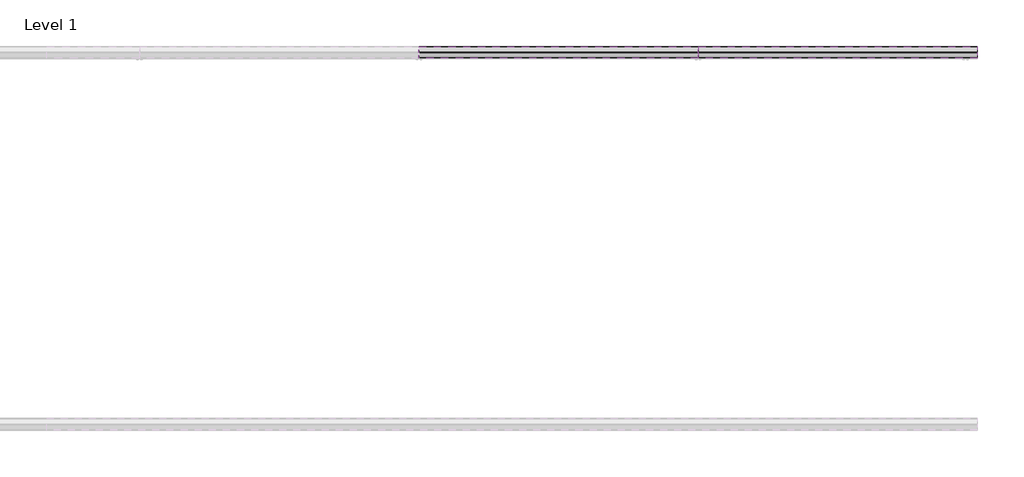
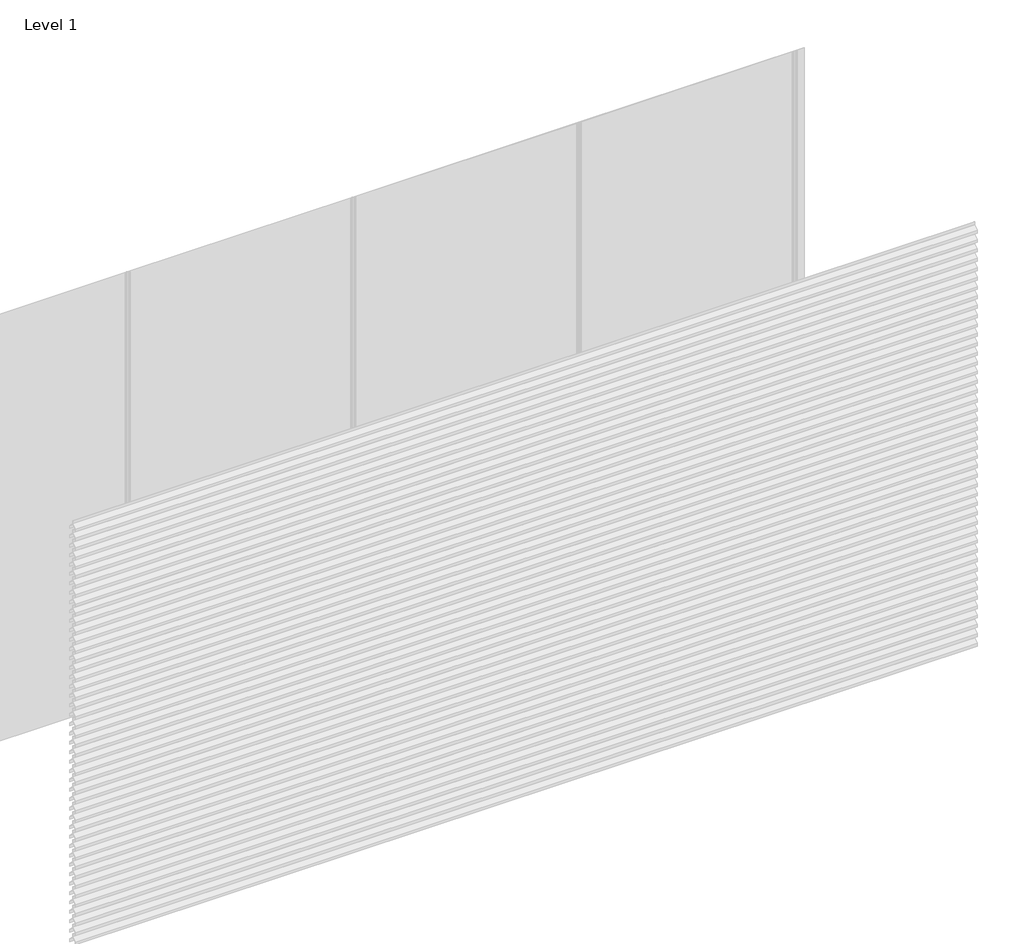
# One storey, part 34 of 35: 75 proxies.
"""IFC4 building model written with IfcOpenShell, lengths in millimetres."""

from ifc_helpers import new_model, si_unit, frame, origin, place, context, project, spatial, polyline, outline, extrude, element, save

model = new_model("IFC4")

# Units and contexts
model_context = context("Model", 3, world=origin())
ifc_project = project(units=[si_unit("LENGTHUNIT", "METRE", prefix="MILLI")], contexts=[model_context])

# Site, building, storey
site = spatial("IfcSite", under=ifc_project)
building = spatial("IfcBuilding", under=site)
storey = spatial("IfcBuildingStorey", under=building, Name="Level 1", Elevation=0.0)

# Proxies
placement = place(None, origin())
element("IfcBuildingElementProxy", 1, Name="Wall Sweeps", at=placement, inside=storey, context=model_context, shape_type="SweptSolid", body=[
    extrude(outline(polyline([(64.0, 2190.0), (64.0, 2170.0), (62.75, 2170.0), (62.75, 2189.4342979), (31.8861061, 2222.531772), (3.3, 2202.4392868), (3.3, 2183.6629874), (2.0, 2182.8506572), (2.0, 2203.1145472), (31.462475, 2223.823011), (31.462475, 2244.0), (32.8227376, 2244.0), (32.8227376, 2223.4335207), (64.0, 2190.0)])), frame((3000.0, 0.0, 0.0), z_axis=(1.0, 0.0, 0.0), x_axis=(0.0, 1.0, 0.0)), (0.0, 0.0, 1.0), 1500.0),
])
element("IfcBuildingElementProxy", 2, Name="Wall Sweeps", at=placement, inside=storey, context=model_context, shape_type="SweptSolid", body=[
    extrude(outline(polyline([(64.0, 2124.0), (64.0, 2104.0), (62.75, 2104.0), (62.75, 2123.4342979), (31.8861061, 2156.531772), (3.3, 2136.4392868), (3.3, 2117.6629874), (2.0, 2116.8506572), (2.0, 2137.1145472), (31.462475, 2157.823011), (31.462475, 2178.0), (32.8227376, 2178.0), (32.8227376, 2157.4335207), (64.0, 2124.0)])), frame((3000.0, 0.0, 0.0), z_axis=(1.0, 0.0, 0.0), x_axis=(0.0, 1.0, 0.0)), (0.0, 0.0, 1.0), 1500.0),
])
element("IfcBuildingElementProxy", 3, Name="Wall Sweeps", at=placement, inside=storey, context=model_context, shape_type="SweptSolid", body=[
    extrude(outline(polyline([(64.0, 2058.0), (64.0, 2038.0), (62.75, 2038.0), (62.75, 2057.4342979), (31.8861061, 2090.531772), (3.3, 2070.4392868), (3.3, 2051.6629874), (2.0, 2050.8506572), (2.0, 2071.1145472), (31.462475, 2091.823011), (31.462475, 2112.0), (32.8227376, 2112.0), (32.8227376, 2091.4335207), (64.0, 2058.0)])), frame((3000.0, 0.0, 0.0), z_axis=(1.0, 0.0, 0.0), x_axis=(0.0, 1.0, 0.0)), (0.0, 0.0, 1.0), 1500.0),
])
element("IfcBuildingElementProxy", 4, Name="Wall Sweeps", at=placement, inside=storey, context=model_context, shape_type="SweptSolid", body=[
    extrude(outline(polyline([(64.0, 1992.0), (64.0, 1972.0), (62.75, 1972.0), (62.75, 1991.4342979), (31.8861061, 2024.531772), (3.3, 2004.4392868), (3.3, 1985.6629874), (2.0, 1984.8506572), (2.0, 2005.1145472), (31.462475, 2025.823011), (31.462475, 2046.0), (32.8227376, 2046.0), (32.8227376, 2025.4335207), (64.0, 1992.0)])), frame((3000.0, 0.0, 0.0), z_axis=(1.0, 0.0, 0.0), x_axis=(0.0, 1.0, 0.0)), (0.0, 0.0, 1.0), 1500.0),
])
element("IfcBuildingElementProxy", 5, Name="Wall Sweeps", at=placement, inside=storey, context=model_context, shape_type="SweptSolid", body=[
    extrude(outline(polyline([(64.0, 1926.0), (64.0, 1906.0), (62.75, 1906.0), (62.75, 1925.4342979), (31.8861061, 1958.531772), (3.3, 1938.4392868), (3.3, 1919.6629874), (2.0, 1918.8506572), (2.0, 1939.1145472), (31.462475, 1959.823011), (31.462475, 1980.0), (32.8227376, 1980.0), (32.8227376, 1959.4335207), (64.0, 1926.0)])), frame((3000.0, 0.0, 0.0), z_axis=(1.0, 0.0, 0.0), x_axis=(0.0, 1.0, 0.0)), (0.0, 0.0, 1.0), 1500.0),
])
element("IfcBuildingElementProxy", 6, Name="Wall Sweeps", at=placement, inside=storey, context=model_context, shape_type="SweptSolid", body=[
    extrude(outline(polyline([(64.0, 1860.0), (64.0, 1840.0), (62.75, 1840.0), (62.75, 1859.4342979), (31.8861061, 1892.531772), (3.3, 1872.4392868), (3.3, 1853.6629874), (2.0, 1852.8506572), (2.0, 1873.1145472), (31.462475, 1893.823011), (31.462475, 1914.0), (32.8227376, 1914.0), (32.8227376, 1893.4335207), (64.0, 1860.0)])), frame((3000.0, 0.0, 0.0), z_axis=(1.0, 0.0, 0.0), x_axis=(0.0, 1.0, 0.0)), (0.0, 0.0, 1.0), 1500.0),
])
element("IfcBuildingElementProxy", 7, Name="Wall Sweeps", at=placement, inside=storey, context=model_context, shape_type="SweptSolid", body=[
    extrude(outline(polyline([(64.0, 1794.0), (64.0, 1774.0), (62.75, 1774.0), (62.75, 1793.4342979), (31.8861061, 1826.531772), (3.3, 1806.4392868), (3.3, 1787.6629874), (2.0, 1786.8506572), (2.0, 1807.1145472), (31.462475, 1827.823011), (31.462475, 1848.0), (32.8227376, 1848.0), (32.8227376, 1827.4335207), (64.0, 1794.0)])), frame((3000.0, 0.0, 0.0), z_axis=(1.0, 0.0, 0.0), x_axis=(0.0, 1.0, 0.0)), (0.0, 0.0, 1.0), 1500.0),
])
element("IfcBuildingElementProxy", 8, Name="Wall Sweeps", at=placement, inside=storey, context=model_context, shape_type="SweptSolid", body=[
    extrude(outline(polyline([(64.0, 1728.0), (64.0, 1708.0), (62.75, 1708.0), (62.75, 1727.4342979), (31.8861061, 1760.531772), (3.3, 1740.4392868), (3.3, 1721.6629874), (2.0, 1720.8506572), (2.0, 1741.1145472), (31.462475, 1761.823011), (31.462475, 1782.0), (32.8227376, 1782.0), (32.8227376, 1761.4335207), (64.0, 1728.0)])), frame((3000.0, 0.0, 0.0), z_axis=(1.0, 0.0, 0.0), x_axis=(0.0, 1.0, 0.0)), (0.0, 0.0, 1.0), 1500.0),
])
element("IfcBuildingElementProxy", 9, Name="Wall Sweeps", at=placement, inside=storey, context=model_context, shape_type="SweptSolid", body=[
    extrude(outline(polyline([(64.0, 1662.0), (64.0, 1642.0), (62.75, 1642.0), (62.75, 1661.4342979), (31.8861061, 1694.531772), (3.3, 1674.4392868), (3.3, 1655.6629874), (2.0, 1654.8506572), (2.0, 1675.1145472), (31.462475, 1695.823011), (31.462475, 1716.0), (32.8227376, 1716.0), (32.8227376, 1695.4335207), (64.0, 1662.0)])), frame((3000.0, 0.0, 0.0), z_axis=(1.0, 0.0, 0.0), x_axis=(0.0, 1.0, 0.0)), (0.0, 0.0, 1.0), 1500.0),
])
element("IfcBuildingElementProxy", 10, Name="Wall Sweeps", at=placement, inside=storey, context=model_context, shape_type="SweptSolid", body=[
    extrude(outline(polyline([(64.0, 1596.0), (64.0, 1576.0), (62.75, 1576.0), (62.75, 1595.4342979), (31.8861061, 1628.531772), (3.3, 1608.4392868), (3.3, 1589.6629874), (2.0, 1588.8506572), (2.0, 1609.1145472), (31.462475, 1629.823011), (31.462475, 1650.0), (32.8227376, 1650.0), (32.8227376, 1629.4335207), (64.0, 1596.0)])), frame((3000.0, 0.0, 0.0), z_axis=(1.0, 0.0, 0.0), x_axis=(0.0, 1.0, 0.0)), (0.0, 0.0, 1.0), 1500.0),
])
element("IfcBuildingElementProxy", 11, Name="Wall Sweeps", at=placement, inside=storey, context=model_context, shape_type="SweptSolid", body=[
    extrude(outline(polyline([(64.0, 1530.0), (64.0, 1510.0), (62.75, 1510.0), (62.75, 1529.4342979), (31.8861061, 1562.531772), (3.3, 1542.4392868), (3.3, 1523.6629874), (2.0, 1522.8506572), (2.0, 1543.1145472), (31.462475, 1563.823011), (31.462475, 1584.0), (32.8227376, 1584.0), (32.8227376, 1563.4335207), (64.0, 1530.0)])), frame((3000.0, 0.0, 0.0), z_axis=(1.0, 0.0, 0.0), x_axis=(0.0, 1.0, 0.0)), (0.0, 0.0, 1.0), 1500.0),
])
element("IfcBuildingElementProxy", 12, Name="Wall Sweeps", at=placement, inside=storey, context=model_context, shape_type="SweptSolid", body=[
    extrude(outline(polyline([(64.0, 1464.0), (64.0, 1444.0), (62.75, 1444.0), (62.75, 1463.4342979), (31.8861061, 1496.531772), (3.3, 1476.4392868), (3.3, 1457.6629874), (2.0, 1456.8506572), (2.0, 1477.1145472), (31.462475, 1497.823011), (31.462475, 1518.0), (32.8227376, 1518.0), (32.8227376, 1497.4335207), (64.0, 1464.0)])), frame((3000.0, 0.0, 0.0), z_axis=(1.0, 0.0, 0.0), x_axis=(0.0, 1.0, 0.0)), (0.0, 0.0, 1.0), 1500.0),
])
element("IfcBuildingElementProxy", 13, Name="Wall Sweeps", at=placement, inside=storey, context=model_context, shape_type="SweptSolid", body=[
    extrude(outline(polyline([(64.0, 1398.0), (64.0, 1378.0), (62.75, 1378.0), (62.75, 1397.4342979), (31.8861061, 1430.531772), (3.3, 1410.4392868), (3.3, 1391.6629874), (2.0, 1390.8506572), (2.0, 1411.1145472), (31.462475, 1431.823011), (31.462475, 1452.0), (32.8227376, 1452.0), (32.8227376, 1431.4335207), (64.0, 1398.0)])), frame((3000.0, 0.0, 0.0), z_axis=(1.0, 0.0, 0.0), x_axis=(0.0, 1.0, 0.0)), (0.0, 0.0, 1.0), 1500.0),
])
element("IfcBuildingElementProxy", 14, Name="Wall Sweeps", at=placement, inside=storey, context=model_context, shape_type="SweptSolid", body=[
    extrude(outline(polyline([(64.0, 1332.0), (64.0, 1312.0), (62.75, 1312.0), (62.75, 1331.4342979), (31.8861061, 1364.531772), (3.3, 1344.4392868), (3.3, 1325.6629874), (2.0, 1324.8506572), (2.0, 1345.1145472), (31.462475, 1365.823011), (31.462475, 1386.0), (32.8227376, 1386.0), (32.8227376, 1365.4335207), (64.0, 1332.0)])), frame((3000.0, 0.0, 0.0), z_axis=(1.0, 0.0, 0.0), x_axis=(0.0, 1.0, 0.0)), (0.0, 0.0, 1.0), 1500.0),
])
element("IfcBuildingElementProxy", 15, Name="Wall Sweeps", at=placement, inside=storey, context=model_context, shape_type="SweptSolid", body=[
    extrude(outline(polyline([(64.0, 1266.0), (64.0, 1246.0), (62.75, 1246.0), (62.75, 1265.4342979), (31.8861061, 1298.531772), (3.3, 1278.4392868), (3.3, 1259.6629874), (2.0, 1258.8506572), (2.0, 1279.1145472), (31.462475, 1299.823011), (31.462475, 1320.0), (32.8227376, 1320.0), (32.8227376, 1299.4335207), (64.0, 1266.0)])), frame((3000.0, 0.0, 0.0), z_axis=(1.0, 0.0, 0.0), x_axis=(0.0, 1.0, 0.0)), (0.0, 0.0, 1.0), 1500.0),
])
element("IfcBuildingElementProxy", 16, Name="Wall Sweeps", at=placement, inside=storey, context=model_context, shape_type="SweptSolid", body=[
    extrude(outline(polyline([(64.0, 1200.0), (64.0, 1180.0), (62.75, 1180.0), (62.75, 1199.4342979), (31.8861061, 1232.531772), (3.3, 1212.4392868), (3.3, 1193.6629874), (2.0, 1192.8506572), (2.0, 1213.1145472), (31.462475, 1233.823011), (31.462475, 1254.0), (32.8227376, 1254.0), (32.8227376, 1233.4335207), (64.0, 1200.0)])), frame((3000.0, 0.0, 0.0), z_axis=(1.0, 0.0, 0.0), x_axis=(0.0, 1.0, 0.0)), (0.0, 0.0, 1.0), 1500.0),
])
element("IfcBuildingElementProxy", 17, Name="Wall Sweeps", at=placement, inside=storey, context=model_context, shape_type="SweptSolid", body=[
    extrude(outline(polyline([(64.0, 1134.0), (64.0, 1114.0), (62.75, 1114.0), (62.75, 1133.4342979), (31.8861061, 1166.531772), (3.3, 1146.4392868), (3.3, 1127.6629874), (2.0, 1126.8506572), (2.0, 1147.1145472), (31.462475, 1167.823011), (31.462475, 1188.0), (32.8227376, 1188.0), (32.8227376, 1167.4335207), (64.0, 1134.0)])), frame((3000.0, 0.0, 0.0), z_axis=(1.0, 0.0, 0.0), x_axis=(0.0, 1.0, 0.0)), (0.0, 0.0, 1.0), 1500.0),
])
element("IfcBuildingElementProxy", 18, Name="Wall Sweeps", at=placement, inside=storey, context=model_context, shape_type="SweptSolid", body=[
    extrude(outline(polyline([(64.0, 1068.0), (64.0, 1048.0), (62.75, 1048.0), (62.75, 1067.4342979), (31.8861061, 1100.531772), (3.3, 1080.4392868), (3.3, 1061.6629874), (2.0, 1060.8506572), (2.0, 1081.1145472), (31.462475, 1101.823011), (31.462475, 1122.0), (32.8227376, 1122.0), (32.8227376, 1101.4335207), (64.0, 1068.0)])), frame((3000.0, 0.0, 0.0), z_axis=(1.0, 0.0, 0.0), x_axis=(0.0, 1.0, 0.0)), (0.0, 0.0, 1.0), 1500.0),
])
element("IfcBuildingElementProxy", 19, Name="Wall Sweeps", at=placement, inside=storey, context=model_context, shape_type="SweptSolid", body=[
    extrude(outline(polyline([(64.0, 1002.0), (64.0, 982.0), (62.75, 982.0), (62.75, 1001.4342979), (31.8861061, 1034.531772), (3.3, 1014.4392868), (3.3, 995.6629874), (2.0, 994.8506572), (2.0, 1015.1145472), (31.462475, 1035.823011), (31.462475, 1056.0), (32.8227376, 1056.0), (32.8227376, 1035.4335207), (64.0, 1002.0)])), frame((3000.0, 0.0, 0.0), z_axis=(1.0, 0.0, 0.0), x_axis=(0.0, 1.0, 0.0)), (0.0, 0.0, 1.0), 1500.0),
])
element("IfcBuildingElementProxy", 20, Name="Wall Sweeps", at=placement, inside=storey, context=model_context, shape_type="SweptSolid", body=[
    extrude(outline(polyline([(64.0, 936.0), (64.0, 916.0), (62.75, 916.0), (62.75, 935.4342979), (31.8861061, 968.531772), (3.3, 948.4392868), (3.3, 929.6629874), (2.0, 928.8506572), (2.0, 949.1145472), (31.462475, 969.823011), (31.462475, 990.0), (32.8227376, 990.0), (32.8227376, 969.4335207), (64.0, 936.0)])), frame((3000.0, 0.0, 0.0), z_axis=(1.0, 0.0, 0.0), x_axis=(0.0, 1.0, 0.0)), (0.0, 0.0, 1.0), 1500.0),
])
element("IfcBuildingElementProxy", 21, Name="Wall Sweeps", at=placement, inside=storey, context=model_context, shape_type="SweptSolid", body=[
    extrude(outline(polyline([(64.0, 870.0), (64.0, 850.0), (62.75, 850.0), (62.75, 869.4342979), (31.8861061, 902.531772), (3.3, 882.4392868), (3.3, 863.6629874), (2.0, 862.8506572), (2.0, 883.1145472), (31.462475, 903.823011), (31.462475, 924.0), (32.8227376, 924.0), (32.8227376, 903.4335207), (64.0, 870.0)])), frame((3000.0, 0.0, 0.0), z_axis=(1.0, 0.0, 0.0), x_axis=(0.0, 1.0, 0.0)), (0.0, 0.0, 1.0), 1500.0),
])
element("IfcBuildingElementProxy", 22, Name="Wall Sweeps", at=placement, inside=storey, context=model_context, shape_type="SweptSolid", body=[
    extrude(outline(polyline([(64.0, 804.0), (64.0, 784.0), (62.75, 784.0), (62.75, 803.4342979), (31.8861061, 836.531772), (3.3, 816.4392868), (3.3, 797.6629874), (2.0, 796.8506572), (2.0, 817.1145472), (31.462475, 837.823011), (31.462475, 858.0), (32.8227376, 858.0), (32.8227376, 837.4335207), (64.0, 804.0)])), frame((3000.0, 0.0, 0.0), z_axis=(1.0, 0.0, 0.0), x_axis=(0.0, 1.0, 0.0)), (0.0, 0.0, 1.0), 1500.0),
])
element("IfcBuildingElementProxy", 23, Name="Wall Sweeps", at=placement, inside=storey, context=model_context, shape_type="SweptSolid", body=[
    extrude(outline(polyline([(64.0, 738.0), (64.0, 718.0), (62.75, 718.0), (62.75, 737.4342979), (31.8861061, 770.531772), (3.3, 750.4392868), (3.3, 731.6629874), (2.0, 730.8506572), (2.0, 751.1145472), (31.462475, 771.823011), (31.462475, 792.0), (32.8227376, 792.0), (32.8227376, 771.4335207), (64.0, 738.0)])), frame((3000.0, 0.0, 0.0), z_axis=(1.0, 0.0, 0.0), x_axis=(0.0, 1.0, 0.0)), (0.0, 0.0, 1.0), 1500.0),
])
element("IfcBuildingElementProxy", 24, Name="Wall Sweeps", at=placement, inside=storey, context=model_context, shape_type="SweptSolid", body=[
    extrude(outline(polyline([(64.0, 672.0), (64.0, 652.0), (62.75, 652.0), (62.75, 671.4342979), (31.8861061, 704.531772), (3.3, 684.4392868), (3.3, 665.6629874), (2.0, 664.8506572), (2.0, 685.1145472), (31.462475, 705.823011), (31.462475, 726.0), (32.8227376, 726.0), (32.8227376, 705.4335207), (64.0, 672.0)])), frame((3000.0, 0.0, 0.0), z_axis=(1.0, 0.0, 0.0), x_axis=(0.0, 1.0, 0.0)), (0.0, 0.0, 1.0), 1500.0),
])
element("IfcBuildingElementProxy", 25, Name="Wall Sweeps", at=placement, inside=storey, context=model_context, shape_type="SweptSolid", body=[
    extrude(outline(polyline([(64.0, 606.0), (64.0, 586.0), (62.75, 586.0), (62.75, 605.4342979), (31.8861061, 638.531772), (3.3, 618.4392868), (3.3, 599.6629874), (2.0, 598.8506572), (2.0, 619.1145472), (31.462475, 639.823011), (31.462475, 660.0), (32.8227376, 660.0), (32.8227376, 639.4335207), (64.0, 606.0)])), frame((3000.0, 0.0, 0.0), z_axis=(1.0, 0.0, 0.0), x_axis=(0.0, 1.0, 0.0)), (0.0, 0.0, 1.0), 1500.0),
])
element("IfcBuildingElementProxy", 26, Name="Wall Sweeps", at=placement, inside=storey, context=model_context, shape_type="SweptSolid", body=[
    extrude(outline(polyline([(64.0, 540.0), (64.0, 520.0), (62.75, 520.0), (62.75, 539.4342979), (31.8861061, 572.531772), (3.3, 552.4392868), (3.3, 533.6629874), (2.0, 532.8506572), (2.0, 553.1145472), (31.462475, 573.823011), (31.462475, 594.0), (32.8227376, 594.0), (32.8227376, 573.4335207), (64.0, 540.0)])), frame((3000.0, 0.0, 0.0), z_axis=(1.0, 0.0, 0.0), x_axis=(0.0, 1.0, 0.0)), (0.0, 0.0, 1.0), 1500.0),
])
element("IfcBuildingElementProxy", 27, Name="Wall Sweeps", at=placement, inside=storey, context=model_context, shape_type="SweptSolid", body=[
    extrude(outline(polyline([(64.0, 474.0), (64.0, 454.0), (62.75, 454.0), (62.75, 473.4342979), (31.8861061, 506.531772), (3.3, 486.4392868), (3.3, 467.6629874), (2.0, 466.8506572), (2.0, 487.1145472), (31.462475, 507.823011), (31.462475, 528.0), (32.8227376, 528.0), (32.8227376, 507.4335207), (64.0, 474.0)])), frame((3000.0, 0.0, 0.0), z_axis=(1.0, 0.0, 0.0), x_axis=(0.0, 1.0, 0.0)), (0.0, 0.0, 1.0), 1500.0),
])
element("IfcBuildingElementProxy", 28, Name="Wall Sweeps", at=placement, inside=storey, context=model_context, shape_type="SweptSolid", body=[
    extrude(outline(polyline([(64.0, 408.0), (64.0, 388.0), (62.75, 388.0), (62.75, 407.4342979), (31.8861061, 440.531772), (3.3, 420.4392868), (3.3, 401.6629874), (2.0, 400.8506572), (2.0, 421.1145472), (31.462475, 441.823011), (31.462475, 462.0), (32.8227376, 462.0), (32.8227376, 441.4335207), (64.0, 408.0)])), frame((3000.0, 0.0, 0.0), z_axis=(1.0, 0.0, 0.0), x_axis=(0.0, 1.0, 0.0)), (0.0, 0.0, 1.0), 1500.0),
])
element("IfcBuildingElementProxy", 29, Name="Wall Sweeps", at=placement, inside=storey, context=model_context, shape_type="SweptSolid", body=[
    extrude(outline(polyline([(64.0, 342.0), (64.0, 322.0), (62.75, 322.0), (62.75, 341.4342979), (31.8861061, 374.531772), (3.3, 354.4392868), (3.3, 335.6629874), (2.0, 334.8506572), (2.0, 355.1145472), (31.462475, 375.823011), (31.462475, 396.0), (32.8227376, 396.0), (32.8227376, 375.4335207), (64.0, 342.0)])), frame((3000.0, 0.0, 0.0), z_axis=(1.0, 0.0, 0.0), x_axis=(0.0, 1.0, 0.0)), (0.0, 0.0, 1.0), 1500.0),
])
element("IfcBuildingElementProxy", 30, Name="Wall Sweeps", at=placement, inside=storey, context=model_context, shape_type="SweptSolid", body=[
    extrude(outline(polyline([(64.0, 276.0), (64.0, 256.0), (62.75, 256.0), (62.75, 275.4342979), (31.8861061, 308.531772), (3.3, 288.4392868), (3.3, 269.6629874), (2.0, 268.8506572), (2.0, 289.1145472), (31.462475, 309.823011), (31.462475, 330.0), (32.8227376, 330.0), (32.8227376, 309.4335207), (64.0, 276.0)])), frame((3000.0, 0.0, 0.0), z_axis=(1.0, 0.0, 0.0), x_axis=(0.0, 1.0, 0.0)), (0.0, 0.0, 1.0), 1500.0),
])
element("IfcBuildingElementProxy", 31, Name="Wall Sweeps", at=placement, inside=storey, context=model_context, shape_type="SweptSolid", body=[
    extrude(outline(polyline([(64.0, 210.0), (64.0, 190.0), (62.75, 190.0), (62.75, 209.4342979), (31.8861061, 242.531772), (3.3, 222.4392868), (3.3, 203.6629874), (2.0, 202.8506572), (2.0, 223.1145472), (31.462475, 243.823011), (31.462475, 264.0), (32.8227376, 264.0), (32.8227376, 243.4335207), (64.0, 210.0)])), frame((3000.0, 0.0, 0.0), z_axis=(1.0, 0.0, 0.0), x_axis=(0.0, 1.0, 0.0)), (0.0, 0.0, 1.0), 1500.0),
])
element("IfcBuildingElementProxy", 32, Name="Wall Sweeps", at=placement, inside=storey, context=model_context, shape_type="SweptSolid", body=[
    extrude(outline(polyline([(64.0, 144.0), (64.0, 124.0), (62.75, 124.0), (62.75, 143.4342979), (31.8861061, 176.531772), (3.3, 156.4392868), (3.3, 137.6629874), (2.0, 136.8506572), (2.0, 157.1145472), (31.462475, 177.823011), (31.462475, 198.0), (32.8227376, 198.0), (32.8227376, 177.4335207), (64.0, 144.0)])), frame((3000.0, 0.0, 0.0), z_axis=(1.0, 0.0, 0.0), x_axis=(0.0, 1.0, 0.0)), (0.0, 0.0, 1.0), 1500.0),
])
element("IfcBuildingElementProxy", 33, Name="Wall Sweeps", at=placement, inside=storey, context=model_context, shape_type="SweptSolid", body=[
    extrude(outline(polyline([(64.0, 78.0), (64.0, 58.0), (62.75, 58.0), (62.75, 77.4342979), (31.8861061, 110.531772), (3.3, 90.4392868), (3.3, 71.6629874), (2.0, 70.8506572), (2.0, 91.1145472), (31.462475, 111.823011), (31.462475, 132.0), (32.8227376, 132.0), (32.8227376, 111.4335207), (64.0, 78.0)])), frame((3000.0, 0.0, 0.0), z_axis=(1.0, 0.0, 0.0), x_axis=(0.0, 1.0, 0.0)), (0.0, 0.0, 1.0), 1500.0),
])
element("IfcBuildingElementProxy", 34, Name="Wall Sweeps", at=placement, inside=storey, context=model_context, shape_type="SweptSolid", body=[
    extrude(outline(polyline([(64.0, 12.0), (64.0, -8.0), (62.75, -8.0), (62.75, 11.4342979), (31.8861061, 44.531772), (3.3, 24.4392868), (3.3, 5.6629874), (2.0, 4.8506572), (2.0, 25.1145472), (31.462475, 45.823011), (31.462475, 66.0), (32.8227376, 66.0), (32.8227376, 45.4335207), (64.0, 12.0)])), frame((3000.0, 0.0, 0.0), z_axis=(1.0, 0.0, 0.0), x_axis=(0.0, 1.0, 0.0)), (0.0, 0.0, 1.0), 1500.0),
])
element("IfcBuildingElementProxy", 35, Name="Wall Sweeps", at=placement, inside=storey, context=model_context, shape_type="SweptSolid", body=[
    extrude(outline(polyline([(64.0, 2916.0), (64.0, 2896.0), (62.75, 2896.0), (62.75, 2915.4342979), (31.8861061, 2948.531772), (3.3, 2928.4392868), (3.3, 2909.6629874), (2.0, 2908.8506572), (2.0, 2929.1145472), (31.462475, 2949.823011), (31.462475, 2970.0), (32.8227376, 2970.0), (32.8227376, 2949.4335207), (64.0, 2916.0)])), frame((4500.0, 0.0, 0.0), z_axis=(1.0, 0.0, 0.0), x_axis=(0.0, 1.0, 0.0)), (0.0, 0.0, 1.0), 1500.0),
])
element("IfcBuildingElementProxy", 36, Name="Wall Sweeps", at=placement, inside=storey, context=model_context, shape_type="SweptSolid", body=[
    extrude(outline(polyline([(64.0, 2850.0), (64.0, 2830.0), (62.75, 2830.0), (62.75, 2849.4342979), (31.8861061, 2882.531772), (3.3, 2862.4392868), (3.3, 2843.6629874), (2.0, 2842.8506572), (2.0, 2863.1145472), (31.462475, 2883.823011), (31.462475, 2904.0), (32.8227376, 2904.0), (32.8227376, 2883.4335207), (64.0, 2850.0)])), frame((4500.0, 0.0, 0.0), z_axis=(1.0, 0.0, 0.0), x_axis=(0.0, 1.0, 0.0)), (0.0, 0.0, 1.0), 1500.0),
])
element("IfcBuildingElementProxy", 37, Name="Wall Sweeps", at=placement, inside=storey, context=model_context, shape_type="SweptSolid", body=[
    extrude(outline(polyline([(64.0, 2784.0), (64.0, 2764.0), (62.75, 2764.0), (62.75, 2783.4342979), (31.8861061, 2816.531772), (3.3, 2796.4392868), (3.3, 2777.6629874), (2.0, 2776.8506572), (2.0, 2797.1145472), (31.462475, 2817.823011), (31.462475, 2838.0), (32.8227376, 2838.0), (32.8227376, 2817.4335207), (64.0, 2784.0)])), frame((4500.0, 0.0, 0.0), z_axis=(1.0, 0.0, 0.0), x_axis=(0.0, 1.0, 0.0)), (0.0, 0.0, 1.0), 1500.0),
])
element("IfcBuildingElementProxy", 38, Name="Wall Sweeps", at=placement, inside=storey, context=model_context, shape_type="SweptSolid", body=[
    extrude(outline(polyline([(64.0, 2718.0), (64.0, 2698.0), (62.75, 2698.0), (62.75, 2717.4342979), (31.8861061, 2750.531772), (3.3, 2730.4392868), (3.3, 2711.6629874), (2.0, 2710.8506572), (2.0, 2731.1145472), (31.462475, 2751.823011), (31.462475, 2772.0), (32.8227376, 2772.0), (32.8227376, 2751.4335207), (64.0, 2718.0)])), frame((4500.0, 0.0, 0.0), z_axis=(1.0, 0.0, 0.0), x_axis=(0.0, 1.0, 0.0)), (0.0, 0.0, 1.0), 1500.0),
])
element("IfcBuildingElementProxy", 39, Name="Wall Sweeps", at=placement, inside=storey, context=model_context, shape_type="SweptSolid", body=[
    extrude(outline(polyline([(64.0, 2652.0), (64.0, 2632.0), (62.75, 2632.0), (62.75, 2651.4342979), (31.8861061, 2684.531772), (3.3, 2664.4392868), (3.3, 2645.6629874), (2.0, 2644.8506572), (2.0, 2665.1145472), (31.462475, 2685.823011), (31.462475, 2706.0), (32.8227376, 2706.0), (32.8227376, 2685.4335207), (64.0, 2652.0)])), frame((4500.0, 0.0, 0.0), z_axis=(1.0, 0.0, 0.0), x_axis=(0.0, 1.0, 0.0)), (0.0, 0.0, 1.0), 1500.0),
])
element("IfcBuildingElementProxy", 40, Name="Wall Sweeps", at=placement, inside=storey, context=model_context, shape_type="SweptSolid", body=[
    extrude(outline(polyline([(64.0, 2586.0), (64.0, 2566.0), (62.75, 2566.0), (62.75, 2585.4342979), (31.8861061, 2618.531772), (3.3, 2598.4392868), (3.3, 2579.6629874), (2.0, 2578.8506572), (2.0, 2599.1145472), (31.462475, 2619.823011), (31.462475, 2640.0), (32.8227376, 2640.0), (32.8227376, 2619.4335207), (64.0, 2586.0)])), frame((4500.0, 0.0, 0.0), z_axis=(1.0, 0.0, 0.0), x_axis=(0.0, 1.0, 0.0)), (0.0, 0.0, 1.0), 1500.0),
])
element("IfcBuildingElementProxy", 41, Name="Wall Sweeps", at=placement, inside=storey, context=model_context, shape_type="SweptSolid", body=[
    extrude(outline(polyline([(64.0, 2520.0), (64.0, 2500.0), (62.75, 2500.0), (62.75, 2519.4342979), (31.8861061, 2552.531772), (3.3, 2532.4392868), (3.3, 2513.6629874), (2.0, 2512.8506572), (2.0, 2533.1145472), (31.462475, 2553.823011), (31.462475, 2574.0), (32.8227376, 2574.0), (32.8227376, 2553.4335207), (64.0, 2520.0)])), frame((4500.0, 0.0, 0.0), z_axis=(1.0, 0.0, 0.0), x_axis=(0.0, 1.0, 0.0)), (0.0, 0.0, 1.0), 1500.0),
])
element("IfcBuildingElementProxy", 42, Name="Wall Sweeps", at=placement, inside=storey, context=model_context, shape_type="SweptSolid", body=[
    extrude(outline(polyline([(64.0, 2454.0), (64.0, 2434.0), (62.75, 2434.0), (62.75, 2453.4342979), (31.8861061, 2486.531772), (3.3, 2466.4392868), (3.3, 2447.6629874), (2.0, 2446.8506572), (2.0, 2467.1145472), (31.462475, 2487.823011), (31.462475, 2508.0), (32.8227376, 2508.0), (32.8227376, 2487.4335207), (64.0, 2454.0)])), frame((4500.0, 0.0, 0.0), z_axis=(1.0, 0.0, 0.0), x_axis=(0.0, 1.0, 0.0)), (0.0, 0.0, 1.0), 1500.0),
])
element("IfcBuildingElementProxy", 43, Name="Wall Sweeps", at=placement, inside=storey, context=model_context, shape_type="SweptSolid", body=[
    extrude(outline(polyline([(64.0, 2388.0), (64.0, 2368.0), (62.75, 2368.0), (62.75, 2387.4342979), (31.8861061, 2420.531772), (3.3, 2400.4392868), (3.3, 2381.6629874), (2.0, 2380.8506572), (2.0, 2401.1145472), (31.462475, 2421.823011), (31.462475, 2442.0), (32.8227376, 2442.0), (32.8227376, 2421.4335207), (64.0, 2388.0)])), frame((4500.0, 0.0, 0.0), z_axis=(1.0, 0.0, 0.0), x_axis=(0.0, 1.0, 0.0)), (0.0, 0.0, 1.0), 1500.0),
])
element("IfcBuildingElementProxy", 44, Name="Wall Sweeps", at=placement, inside=storey, context=model_context, shape_type="SweptSolid", body=[
    extrude(outline(polyline([(64.0, 2322.0), (64.0, 2302.0), (62.75, 2302.0), (62.75, 2321.4342979), (31.8861061, 2354.531772), (3.3, 2334.4392868), (3.3, 2315.6629874), (2.0, 2314.8506572), (2.0, 2335.1145472), (31.462475, 2355.823011), (31.462475, 2376.0), (32.8227376, 2376.0), (32.8227376, 2355.4335207), (64.0, 2322.0)])), frame((4500.0, 0.0, 0.0), z_axis=(1.0, 0.0, 0.0), x_axis=(0.0, 1.0, 0.0)), (0.0, 0.0, 1.0), 1500.0),
])
element("IfcBuildingElementProxy", 45, Name="Wall Sweeps", at=placement, inside=storey, context=model_context, shape_type="SweptSolid", body=[
    extrude(outline(polyline([(64.0, 2256.0), (64.0, 2236.0), (62.75, 2236.0), (62.75, 2255.4342979), (31.8861061, 2288.531772), (3.3, 2268.4392868), (3.3, 2249.6629874), (2.0, 2248.8506572), (2.0, 2269.1145472), (31.462475, 2289.823011), (31.462475, 2310.0), (32.8227376, 2310.0), (32.8227376, 2289.4335207), (64.0, 2256.0)])), frame((4500.0, 0.0, 0.0), z_axis=(1.0, 0.0, 0.0), x_axis=(0.0, 1.0, 0.0)), (0.0, 0.0, 1.0), 1500.0),
])
element("IfcBuildingElementProxy", 46, Name="Wall Sweeps", at=placement, inside=storey, context=model_context, shape_type="SweptSolid", body=[
    extrude(outline(polyline([(64.0, 2190.0), (64.0, 2170.0), (62.75, 2170.0), (62.75, 2189.4342979), (31.8861061, 2222.531772), (3.3, 2202.4392868), (3.3, 2183.6629874), (2.0, 2182.8506572), (2.0, 2203.1145472), (31.462475, 2223.823011), (31.462475, 2244.0), (32.8227376, 2244.0), (32.8227376, 2223.4335207), (64.0, 2190.0)])), frame((4500.0, 0.0, 0.0), z_axis=(1.0, 0.0, 0.0), x_axis=(0.0, 1.0, 0.0)), (0.0, 0.0, 1.0), 1500.0),
])
element("IfcBuildingElementProxy", 47, Name="Wall Sweeps", at=placement, inside=storey, context=model_context, shape_type="SweptSolid", body=[
    extrude(outline(polyline([(64.0, 2124.0), (64.0, 2104.0), (62.75, 2104.0), (62.75, 2123.4342979), (31.8861061, 2156.531772), (3.3, 2136.4392868), (3.3, 2117.6629874), (2.0, 2116.8506572), (2.0, 2137.1145472), (31.462475, 2157.823011), (31.462475, 2178.0), (32.8227376, 2178.0), (32.8227376, 2157.4335207), (64.0, 2124.0)])), frame((4500.0, 0.0, 0.0), z_axis=(1.0, 0.0, 0.0), x_axis=(0.0, 1.0, 0.0)), (0.0, 0.0, 1.0), 1500.0),
])
element("IfcBuildingElementProxy", 48, Name="Wall Sweeps", at=placement, inside=storey, context=model_context, shape_type="SweptSolid", body=[
    extrude(outline(polyline([(64.0, 2058.0), (64.0, 2038.0), (62.75, 2038.0), (62.75, 2057.4342979), (31.8861061, 2090.531772), (3.3, 2070.4392868), (3.3, 2051.6629874), (2.0, 2050.8506572), (2.0, 2071.1145472), (31.462475, 2091.823011), (31.462475, 2112.0), (32.8227376, 2112.0), (32.8227376, 2091.4335207), (64.0, 2058.0)])), frame((4500.0, 0.0, 0.0), z_axis=(1.0, 0.0, 0.0), x_axis=(0.0, 1.0, 0.0)), (0.0, 0.0, 1.0), 1500.0),
])
element("IfcBuildingElementProxy", 49, Name="Wall Sweeps", at=placement, inside=storey, context=model_context, shape_type="SweptSolid", body=[
    extrude(outline(polyline([(64.0, 1992.0), (64.0, 1972.0), (62.75, 1972.0), (62.75, 1991.4342979), (31.8861061, 2024.531772), (3.3, 2004.4392868), (3.3, 1985.6629874), (2.0, 1984.8506572), (2.0, 2005.1145472), (31.462475, 2025.823011), (31.462475, 2046.0), (32.8227376, 2046.0), (32.8227376, 2025.4335207), (64.0, 1992.0)])), frame((4500.0, 0.0, 0.0), z_axis=(1.0, 0.0, 0.0), x_axis=(0.0, 1.0, 0.0)), (0.0, 0.0, 1.0), 1500.0),
])
element("IfcBuildingElementProxy", 50, Name="Wall Sweeps", at=placement, inside=storey, context=model_context, shape_type="SweptSolid", body=[
    extrude(outline(polyline([(64.0, 1926.0), (64.0, 1906.0), (62.75, 1906.0), (62.75, 1925.4342979), (31.8861061, 1958.531772), (3.3, 1938.4392868), (3.3, 1919.6629874), (2.0, 1918.8506572), (2.0, 1939.1145472), (31.462475, 1959.823011), (31.462475, 1980.0), (32.8227376, 1980.0), (32.8227376, 1959.4335207), (64.0, 1926.0)])), frame((4500.0, 0.0, 0.0), z_axis=(1.0, 0.0, 0.0), x_axis=(0.0, 1.0, 0.0)), (0.0, 0.0, 1.0), 1500.0),
])
element("IfcBuildingElementProxy", 51, Name="Wall Sweeps", at=placement, inside=storey, context=model_context, shape_type="SweptSolid", body=[
    extrude(outline(polyline([(64.0, 1860.0), (64.0, 1840.0), (62.75, 1840.0), (62.75, 1859.4342979), (31.8861061, 1892.531772), (3.3, 1872.4392868), (3.3, 1853.6629874), (2.0, 1852.8506572), (2.0, 1873.1145472), (31.462475, 1893.823011), (31.462475, 1914.0), (32.8227376, 1914.0), (32.8227376, 1893.4335207), (64.0, 1860.0)])), frame((4500.0, 0.0, 0.0), z_axis=(1.0, 0.0, 0.0), x_axis=(0.0, 1.0, 0.0)), (0.0, 0.0, 1.0), 1500.0),
])
element("IfcBuildingElementProxy", 52, Name="Wall Sweeps", at=placement, inside=storey, context=model_context, shape_type="SweptSolid", body=[
    extrude(outline(polyline([(64.0, 1794.0), (64.0, 1774.0), (62.75, 1774.0), (62.75, 1793.4342979), (31.8861061, 1826.531772), (3.3, 1806.4392868), (3.3, 1787.6629874), (2.0, 1786.8506572), (2.0, 1807.1145472), (31.462475, 1827.823011), (31.462475, 1848.0), (32.8227376, 1848.0), (32.8227376, 1827.4335207), (64.0, 1794.0)])), frame((4500.0, 0.0, 0.0), z_axis=(1.0, 0.0, 0.0), x_axis=(0.0, 1.0, 0.0)), (0.0, 0.0, 1.0), 1500.0),
])
element("IfcBuildingElementProxy", 53, Name="Wall Sweeps", at=placement, inside=storey, context=model_context, shape_type="SweptSolid", body=[
    extrude(outline(polyline([(64.0, 1728.0), (64.0, 1708.0), (62.75, 1708.0), (62.75, 1727.4342979), (31.8861061, 1760.531772), (3.3, 1740.4392868), (3.3, 1721.6629874), (2.0, 1720.8506572), (2.0, 1741.1145472), (31.462475, 1761.823011), (31.462475, 1782.0), (32.8227376, 1782.0), (32.8227376, 1761.4335207), (64.0, 1728.0)])), frame((4500.0, 0.0, 0.0), z_axis=(1.0, 0.0, 0.0), x_axis=(0.0, 1.0, 0.0)), (0.0, 0.0, 1.0), 1500.0),
])
element("IfcBuildingElementProxy", 54, Name="Wall Sweeps", at=placement, inside=storey, context=model_context, shape_type="SweptSolid", body=[
    extrude(outline(polyline([(64.0, 1662.0), (64.0, 1642.0), (62.75, 1642.0), (62.75, 1661.4342979), (31.8861061, 1694.531772), (3.3, 1674.4392868), (3.3, 1655.6629874), (2.0, 1654.8506572), (2.0, 1675.1145472), (31.462475, 1695.823011), (31.462475, 1716.0), (32.8227376, 1716.0), (32.8227376, 1695.4335207), (64.0, 1662.0)])), frame((4500.0, 0.0, 0.0), z_axis=(1.0, 0.0, 0.0), x_axis=(0.0, 1.0, 0.0)), (0.0, 0.0, 1.0), 1500.0),
])
element("IfcBuildingElementProxy", 55, Name="Wall Sweeps", at=placement, inside=storey, context=model_context, shape_type="SweptSolid", body=[
    extrude(outline(polyline([(64.0, 1596.0), (64.0, 1576.0), (62.75, 1576.0), (62.75, 1595.4342979), (31.8861061, 1628.531772), (3.3, 1608.4392868), (3.3, 1589.6629874), (2.0, 1588.8506572), (2.0, 1609.1145472), (31.462475, 1629.823011), (31.462475, 1650.0), (32.8227376, 1650.0), (32.8227376, 1629.4335207), (64.0, 1596.0)])), frame((4500.0, 0.0, 0.0), z_axis=(1.0, 0.0, 0.0), x_axis=(0.0, 1.0, 0.0)), (0.0, 0.0, 1.0), 1500.0),
])
element("IfcBuildingElementProxy", 56, Name="Wall Sweeps", at=placement, inside=storey, context=model_context, shape_type="SweptSolid", body=[
    extrude(outline(polyline([(64.0, 1530.0), (64.0, 1510.0), (62.75, 1510.0), (62.75, 1529.4342979), (31.8861061, 1562.531772), (3.3, 1542.4392868), (3.3, 1523.6629874), (2.0, 1522.8506572), (2.0, 1543.1145472), (31.462475, 1563.823011), (31.462475, 1584.0), (32.8227376, 1584.0), (32.8227376, 1563.4335207), (64.0, 1530.0)])), frame((4500.0, 0.0, 0.0), z_axis=(1.0, 0.0, 0.0), x_axis=(0.0, 1.0, 0.0)), (0.0, 0.0, 1.0), 1500.0),
])
element("IfcBuildingElementProxy", 57, Name="Wall Sweeps", at=placement, inside=storey, context=model_context, shape_type="SweptSolid", body=[
    extrude(outline(polyline([(64.0, 1464.0), (64.0, 1444.0), (62.75, 1444.0), (62.75, 1463.4342979), (31.8861061, 1496.531772), (3.3, 1476.4392868), (3.3, 1457.6629874), (2.0, 1456.8506572), (2.0, 1477.1145472), (31.462475, 1497.823011), (31.462475, 1518.0), (32.8227376, 1518.0), (32.8227376, 1497.4335207), (64.0, 1464.0)])), frame((4500.0, 0.0, 0.0), z_axis=(1.0, 0.0, 0.0), x_axis=(0.0, 1.0, 0.0)), (0.0, 0.0, 1.0), 1500.0),
])
element("IfcBuildingElementProxy", 58, Name="Wall Sweeps", at=placement, inside=storey, context=model_context, shape_type="SweptSolid", body=[
    extrude(outline(polyline([(64.0, 1398.0), (64.0, 1378.0), (62.75, 1378.0), (62.75, 1397.4342979), (31.8861061, 1430.531772), (3.3, 1410.4392868), (3.3, 1391.6629874), (2.0, 1390.8506572), (2.0, 1411.1145472), (31.462475, 1431.823011), (31.462475, 1452.0), (32.8227376, 1452.0), (32.8227376, 1431.4335207), (64.0, 1398.0)])), frame((4500.0, 0.0, 0.0), z_axis=(1.0, 0.0, 0.0), x_axis=(0.0, 1.0, 0.0)), (0.0, 0.0, 1.0), 1500.0),
])
element("IfcBuildingElementProxy", 59, Name="Wall Sweeps", at=placement, inside=storey, context=model_context, shape_type="SweptSolid", body=[
    extrude(outline(polyline([(64.0, 1332.0), (64.0, 1312.0), (62.75, 1312.0), (62.75, 1331.4342979), (31.8861061, 1364.531772), (3.3, 1344.4392868), (3.3, 1325.6629874), (2.0, 1324.8506572), (2.0, 1345.1145472), (31.462475, 1365.823011), (31.462475, 1386.0), (32.8227376, 1386.0), (32.8227376, 1365.4335207), (64.0, 1332.0)])), frame((4500.0, 0.0, 0.0), z_axis=(1.0, 0.0, 0.0), x_axis=(0.0, 1.0, 0.0)), (0.0, 0.0, 1.0), 1500.0),
])
element("IfcBuildingElementProxy", 60, Name="Wall Sweeps", at=placement, inside=storey, context=model_context, shape_type="SweptSolid", body=[
    extrude(outline(polyline([(64.0, 1266.0), (64.0, 1246.0), (62.75, 1246.0), (62.75, 1265.4342979), (31.8861061, 1298.531772), (3.3, 1278.4392868), (3.3, 1259.6629874), (2.0, 1258.8506572), (2.0, 1279.1145472), (31.462475, 1299.823011), (31.462475, 1320.0), (32.8227376, 1320.0), (32.8227376, 1299.4335207), (64.0, 1266.0)])), frame((4500.0, 0.0, 0.0), z_axis=(1.0, 0.0, 0.0), x_axis=(0.0, 1.0, 0.0)), (0.0, 0.0, 1.0), 1500.0),
])
element("IfcBuildingElementProxy", 61, Name="Wall Sweeps", at=placement, inside=storey, context=model_context, shape_type="SweptSolid", body=[
    extrude(outline(polyline([(64.0, 1200.0), (64.0, 1180.0), (62.75, 1180.0), (62.75, 1199.4342979), (31.8861061, 1232.531772), (3.3, 1212.4392868), (3.3, 1193.6629874), (2.0, 1192.8506572), (2.0, 1213.1145472), (31.462475, 1233.823011), (31.462475, 1254.0), (32.8227376, 1254.0), (32.8227376, 1233.4335207), (64.0, 1200.0)])), frame((4500.0, 0.0, 0.0), z_axis=(1.0, 0.0, 0.0), x_axis=(0.0, 1.0, 0.0)), (0.0, 0.0, 1.0), 1500.0),
])
element("IfcBuildingElementProxy", 62, Name="Wall Sweeps", at=placement, inside=storey, context=model_context, shape_type="SweptSolid", body=[
    extrude(outline(polyline([(64.0, 1134.0), (64.0, 1114.0), (62.75, 1114.0), (62.75, 1133.4342979), (31.8861061, 1166.531772), (3.3, 1146.4392868), (3.3, 1127.6629874), (2.0, 1126.8506572), (2.0, 1147.1145472), (31.462475, 1167.823011), (31.462475, 1188.0), (32.8227376, 1188.0), (32.8227376, 1167.4335207), (64.0, 1134.0)])), frame((4500.0, 0.0, 0.0), z_axis=(1.0, 0.0, 0.0), x_axis=(0.0, 1.0, 0.0)), (0.0, 0.0, 1.0), 1500.0),
])
element("IfcBuildingElementProxy", 63, Name="Wall Sweeps", at=placement, inside=storey, context=model_context, shape_type="SweptSolid", body=[
    extrude(outline(polyline([(64.0, 1068.0), (64.0, 1048.0), (62.75, 1048.0), (62.75, 1067.4342979), (31.8861061, 1100.531772), (3.3, 1080.4392868), (3.3, 1061.6629874), (2.0, 1060.8506572), (2.0, 1081.1145472), (31.462475, 1101.823011), (31.462475, 1122.0), (32.8227376, 1122.0), (32.8227376, 1101.4335207), (64.0, 1068.0)])), frame((4500.0, 0.0, 0.0), z_axis=(1.0, 0.0, 0.0), x_axis=(0.0, 1.0, 0.0)), (0.0, 0.0, 1.0), 1500.0),
])
element("IfcBuildingElementProxy", 64, Name="Wall Sweeps", at=placement, inside=storey, context=model_context, shape_type="SweptSolid", body=[
    extrude(outline(polyline([(64.0, 1002.0), (64.0, 982.0), (62.75, 982.0), (62.75, 1001.4342979), (31.8861061, 1034.531772), (3.3, 1014.4392868), (3.3, 995.6629874), (2.0, 994.8506572), (2.0, 1015.1145472), (31.462475, 1035.823011), (31.462475, 1056.0), (32.8227376, 1056.0), (32.8227376, 1035.4335207), (64.0, 1002.0)])), frame((4500.0, 0.0, 0.0), z_axis=(1.0, 0.0, 0.0), x_axis=(0.0, 1.0, 0.0)), (0.0, 0.0, 1.0), 1500.0),
])
element("IfcBuildingElementProxy", 65, Name="Wall Sweeps", at=placement, inside=storey, context=model_context, shape_type="SweptSolid", body=[
    extrude(outline(polyline([(64.0, 936.0), (64.0, 916.0), (62.75, 916.0), (62.75, 935.4342979), (31.8861061, 968.531772), (3.3, 948.4392868), (3.3, 929.6629874), (2.0, 928.8506572), (2.0, 949.1145472), (31.462475, 969.823011), (31.462475, 990.0), (32.8227376, 990.0), (32.8227376, 969.4335207), (64.0, 936.0)])), frame((4500.0, 0.0, 0.0), z_axis=(1.0, 0.0, 0.0), x_axis=(0.0, 1.0, 0.0)), (0.0, 0.0, 1.0), 1500.0),
])
element("IfcBuildingElementProxy", 66, Name="Wall Sweeps", at=placement, inside=storey, context=model_context, shape_type="SweptSolid", body=[
    extrude(outline(polyline([(64.0, 870.0), (64.0, 850.0), (62.75, 850.0), (62.75, 869.4342979), (31.8861061, 902.531772), (3.3, 882.4392868), (3.3, 863.6629874), (2.0, 862.8506572), (2.0, 883.1145472), (31.462475, 903.823011), (31.462475, 924.0), (32.8227376, 924.0), (32.8227376, 903.4335207), (64.0, 870.0)])), frame((4500.0, 0.0, 0.0), z_axis=(1.0, 0.0, 0.0), x_axis=(0.0, 1.0, 0.0)), (0.0, 0.0, 1.0), 1500.0),
])
element("IfcBuildingElementProxy", 67, Name="Wall Sweeps", at=placement, inside=storey, context=model_context, shape_type="SweptSolid", body=[
    extrude(outline(polyline([(64.0, 804.0), (64.0, 784.0), (62.75, 784.0), (62.75, 803.4342979), (31.8861061, 836.531772), (3.3, 816.4392868), (3.3, 797.6629874), (2.0, 796.8506572), (2.0, 817.1145472), (31.462475, 837.823011), (31.462475, 858.0), (32.8227376, 858.0), (32.8227376, 837.4335207), (64.0, 804.0)])), frame((4500.0, 0.0, 0.0), z_axis=(1.0, 0.0, 0.0), x_axis=(0.0, 1.0, 0.0)), (0.0, 0.0, 1.0), 1500.0),
])
element("IfcBuildingElementProxy", 68, Name="Wall Sweeps", at=placement, inside=storey, context=model_context, shape_type="SweptSolid", body=[
    extrude(outline(polyline([(64.0, 738.0), (64.0, 718.0), (62.75, 718.0), (62.75, 737.4342979), (31.8861061, 770.531772), (3.3, 750.4392868), (3.3, 731.6629874), (2.0, 730.8506572), (2.0, 751.1145472), (31.462475, 771.823011), (31.462475, 792.0), (32.8227376, 792.0), (32.8227376, 771.4335207), (64.0, 738.0)])), frame((4500.0, 0.0, 0.0), z_axis=(1.0, 0.0, 0.0), x_axis=(0.0, 1.0, 0.0)), (0.0, 0.0, 1.0), 1500.0),
])
element("IfcBuildingElementProxy", 69, Name="Wall Sweeps", at=placement, inside=storey, context=model_context, shape_type="SweptSolid", body=[
    extrude(outline(polyline([(64.0, 672.0), (64.0, 652.0), (62.75, 652.0), (62.75, 671.4342979), (31.8861061, 704.531772), (3.3, 684.4392868), (3.3, 665.6629874), (2.0, 664.8506572), (2.0, 685.1145472), (31.462475, 705.823011), (31.462475, 726.0), (32.8227376, 726.0), (32.8227376, 705.4335207), (64.0, 672.0)])), frame((4500.0, 0.0, 0.0), z_axis=(1.0, 0.0, 0.0), x_axis=(0.0, 1.0, 0.0)), (0.0, 0.0, 1.0), 1500.0),
])
element("IfcBuildingElementProxy", 70, Name="Wall Sweeps", at=placement, inside=storey, context=model_context, shape_type="SweptSolid", body=[
    extrude(outline(polyline([(64.0, 606.0), (64.0, 586.0), (62.75, 586.0), (62.75, 605.4342979), (31.8861061, 638.531772), (3.3, 618.4392868), (3.3, 599.6629874), (2.0, 598.8506572), (2.0, 619.1145472), (31.462475, 639.823011), (31.462475, 660.0), (32.8227376, 660.0), (32.8227376, 639.4335207), (64.0, 606.0)])), frame((4500.0, 0.0, 0.0), z_axis=(1.0, 0.0, 0.0), x_axis=(0.0, 1.0, 0.0)), (0.0, 0.0, 1.0), 1500.0),
])
element("IfcBuildingElementProxy", 71, Name="Wall Sweeps", at=placement, inside=storey, context=model_context, shape_type="SweptSolid", body=[
    extrude(outline(polyline([(64.0, 540.0), (64.0, 520.0), (62.75, 520.0), (62.75, 539.4342979), (31.8861061, 572.531772), (3.3, 552.4392868), (3.3, 533.6629874), (2.0, 532.8506572), (2.0, 553.1145472), (31.462475, 573.823011), (31.462475, 594.0), (32.8227376, 594.0), (32.8227376, 573.4335207), (64.0, 540.0)])), frame((4500.0, 0.0, 0.0), z_axis=(1.0, 0.0, 0.0), x_axis=(0.0, 1.0, 0.0)), (0.0, 0.0, 1.0), 1500.0),
])
element("IfcBuildingElementProxy", 72, Name="Wall Sweeps", at=placement, inside=storey, context=model_context, shape_type="SweptSolid", body=[
    extrude(outline(polyline([(64.0, 474.0), (64.0, 454.0), (62.75, 454.0), (62.75, 473.4342979), (31.8861061, 506.531772), (3.3, 486.4392868), (3.3, 467.6629874), (2.0, 466.8506572), (2.0, 487.1145472), (31.462475, 507.823011), (31.462475, 528.0), (32.8227376, 528.0), (32.8227376, 507.4335207), (64.0, 474.0)])), frame((4500.0, 0.0, 0.0), z_axis=(1.0, 0.0, 0.0), x_axis=(0.0, 1.0, 0.0)), (0.0, 0.0, 1.0), 1500.0),
])
element("IfcBuildingElementProxy", 73, Name="Wall Sweeps", at=placement, inside=storey, context=model_context, shape_type="SweptSolid", body=[
    extrude(outline(polyline([(64.0, 408.0), (64.0, 388.0), (62.75, 388.0), (62.75, 407.4342979), (31.8861061, 440.531772), (3.3, 420.4392868), (3.3, 401.6629874), (2.0, 400.8506572), (2.0, 421.1145472), (31.462475, 441.823011), (31.462475, 462.0), (32.8227376, 462.0), (32.8227376, 441.4335207), (64.0, 408.0)])), frame((4500.0, 0.0, 0.0), z_axis=(1.0, 0.0, 0.0), x_axis=(0.0, 1.0, 0.0)), (0.0, 0.0, 1.0), 1500.0),
])
element("IfcBuildingElementProxy", 74, Name="Wall Sweeps", at=placement, inside=storey, context=model_context, shape_type="SweptSolid", body=[
    extrude(outline(polyline([(64.0, 342.0), (64.0, 322.0), (62.75, 322.0), (62.75, 341.4342979), (31.8861061, 374.531772), (3.3, 354.4392868), (3.3, 335.6629874), (2.0, 334.8506572), (2.0, 355.1145472), (31.462475, 375.823011), (31.462475, 396.0), (32.8227376, 396.0), (32.8227376, 375.4335207), (64.0, 342.0)])), frame((4500.0, 0.0, 0.0), z_axis=(1.0, 0.0, 0.0), x_axis=(0.0, 1.0, 0.0)), (0.0, 0.0, 1.0), 1500.0),
])
element("IfcBuildingElementProxy", 75, Name="Wall Sweeps", at=placement, inside=storey, context=model_context, shape_type="SweptSolid", body=[
    extrude(outline(polyline([(64.0, 276.0), (64.0, 256.0), (62.75, 256.0), (62.75, 275.4342979), (31.8861061, 308.531772), (3.3, 288.4392868), (3.3, 269.6629874), (2.0, 268.8506572), (2.0, 289.1145472), (31.462475, 309.823011), (31.462475, 330.0), (32.8227376, 330.0), (32.8227376, 309.4335207), (64.0, 276.0)])), frame((4500.0, 0.0, 0.0), z_axis=(1.0, 0.0, 0.0), x_axis=(0.0, 1.0, 0.0)), (0.0, 0.0, 1.0), 1500.0),
])

save(model, "model.ifc")
